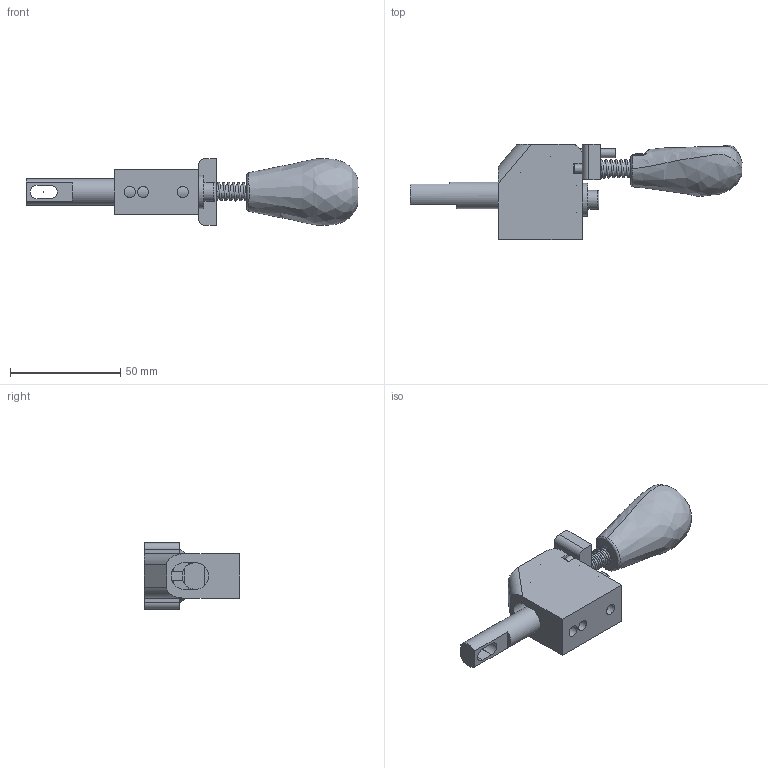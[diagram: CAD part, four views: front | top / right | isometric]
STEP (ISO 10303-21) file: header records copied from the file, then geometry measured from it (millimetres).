
FILE_DESCRIPTION(/* description */ (''),/* implementation_level */ '2;1');
FILE_NAME(/* name */ '\\192.168.1.150\pc03\Inventor\デュアルメカニズムクランプ最終\2017.10月　最新型\SUD-20ST-L\SUD-20ST-CLAMP.stp',/* time_stamp */ '2024-05-14T17:02:23+09:00',/* author */ ('Backup'),/* organization */ (''),/* preprocessor_version */ 'ST-DEVELOPER v17',/* originating_system */ 'Autodesk Inventor 2019',/* authorisation */ '');
FILE_SCHEMA (('AUTOMOTIVE_DESIGN { 1 0 10303 214 3 1 1 }'));
Length unit declared in the file: millimetre
Products named in the file (12): SUD-20ST-CLAMP; ボディー; 50-30_VER4_PG2__12; SB止め板; Φ8×40ｼｬﾌﾄ; カム; スライドバー; φ4×25; φ4×25_1; スプリング; ロック機構; AS 1420 - 1973 - M5 x 14
Assembly tree (12 placements, depth 2):
  SUD-20ST-CLAMP
    ボディー
    50-30_VER4_PG2__12
    SB止め板
    Φ8×40ｼｬﾌﾄ
    カム
    スライドバー
    φ4×25
    φ4×25_1  x2
    スプリング
    ロック機構
    AS 1420 - 1973 - M5 x 14
Bounding box: 150.25 x 43 x 30.18 mm (x, y, z)
Volume: 53917.7 mm3; surface area: 24137.1 mm2
Topology: 13 solids, 13 shells, 265 faces, 724 edges, 484 vertices
Faces by surface type: plane 128, cylinder 98, bspline 25, cone 8, sphere 4, torus 2
Full cylindrical faces by diameter (mm): 0.01 x13, 0.1 x1, 1.306 x1, 3.2 x8, 4 x7, 4.1 x1, 5 x2, 5.1 x1, 5.2 x3, 6 x3, 6.1 x1, 8.5 x1, 12 x1, 15 x1
Entity records: 20159 total; most frequent: CARTESIAN_POINT 13040, ORIENTED_EDGE 1426, DIRECTION 1353, EDGE_CURVE 713, AXIS2_PLACEMENT_3D 491, VERTEX_POINT 481, LINE 371, VECTOR 371
